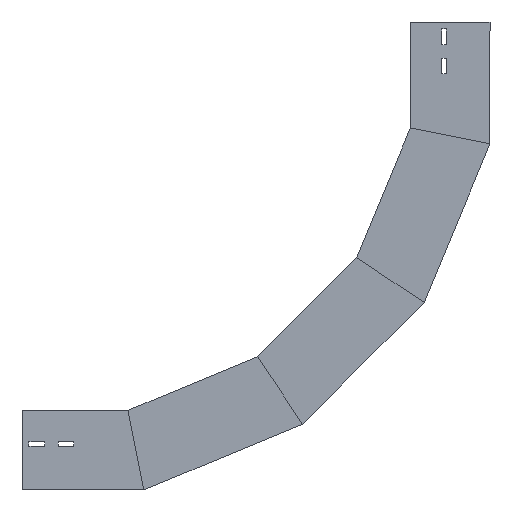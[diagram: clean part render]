
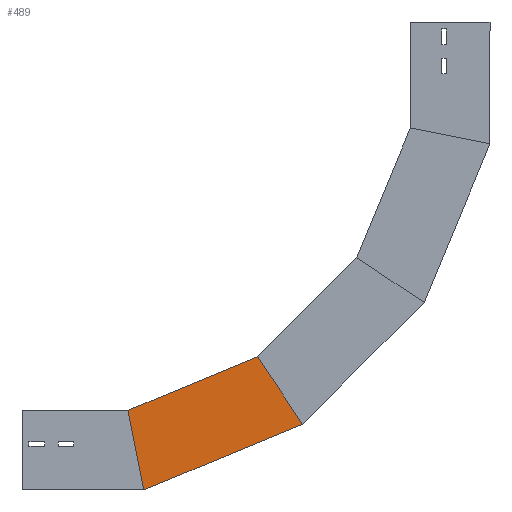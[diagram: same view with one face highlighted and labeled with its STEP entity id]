
A CAD part, left-side view. The second image highlights one B-rep face of the part: STEP entity #489.
In plain terms, the highlighted planar face has unit normal (-1, 0, 0) as drawn and (1, 0, 0) by its records, which use the part's own axes.
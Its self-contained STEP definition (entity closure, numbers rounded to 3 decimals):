
#46 = LINE ( 'NONE', #523, #459 ) ;
#47 = VERTEX_POINT ( 'NONE', #443 ) ;
#51 = CARTESIAN_POINT ( 'NONE',  ( 0., 32.93, -165.55 ) ) ;
#64 = DIRECTION ( 'NONE',  ( -1., 0., 0. ) ) ;
#82 = CARTESIAN_POINT ( 'NONE',  ( 0., 93.03, -396.695 ) ) ;
#92 = AXIS2_PLACEMENT_3D ( 'NONE', #1627, #64, #1808 ) ;
#213 = CARTESIAN_POINT ( 'NONE',  ( 0., 188.403, -332.969 ) ) ;
#224 = EDGE_CURVE ( 'NONE', #320, #1850, #1189, .T. ) ;
#248 = LINE ( 'NONE', #987, #1246 ) ;
#260 = ORIENTED_EDGE ( 'NONE', *, *, #1364, .T. ) ;
#293 = ORIENTED_EDGE ( 'NONE', *, *, #959, .T. ) ;
#320 = VERTEX_POINT ( 'NONE', #213 ) ;
#443 = CARTESIAN_POINT ( 'NONE',  ( 0., 112.5, -149.722 ) ) ;
#459 = VECTOR ( 'NONE', #818, 1000. ) ;
#463 = ORIENTED_EDGE ( 'NONE', *, *, #1502, .F. ) ;
#489 = ADVANCED_FACE ( 'NONE', ( #920 ), #929, .F. ) ;
#523 = CARTESIAN_POINT ( 'NONE',  ( 0., 0., -172.1 ) ) ;
#524 = VECTOR ( 'NONE', #1504, 1000. ) ;
#549 = VERTEX_POINT ( 'NONE', #1118 ) ;
#602 = ORIENTED_EDGE ( 'NONE', *, *, #224, .F. ) ;
#659 = CARTESIAN_POINT ( 'NONE',  ( 0., 132.464, -370.346 ) ) ;
#680 = LINE ( 'NONE', #51, #1577 ) ;
#818 = DIRECTION ( 'NONE',  ( 0., 0.383, -0.924 ) ) ;
#920 = FACE_OUTER_BOUND ( 'NONE', #1456, .T. ) ;
#929 = PLANE ( 'NONE',  #92 ) ;
#959 = EDGE_CURVE ( 'NONE', #549, #1850, #46, .T. ) ;
#987 = CARTESIAN_POINT ( 'NONE',  ( 0., 103.936, -129.048 ) ) ;
#1118 = CARTESIAN_POINT ( 'NONE',  ( 0., 0., -172.1 ) ) ;
#1189 = LINE ( 'NONE', #659, #524 ) ;
#1246 = VECTOR ( 'NONE', #1569, 1000. ) ;
#1364 = EDGE_CURVE ( 'NONE', #47, #549, #680, .T. ) ;
#1456 = EDGE_LOOP ( 'NONE', ( #463, #260, #293, #602 ) ) ;
#1502 = EDGE_CURVE ( 'NONE', #47, #320, #248, .T. ) ;
#1504 = DIRECTION ( 'NONE',  ( 0., -0.831, -0.556 ) ) ;
#1569 = DIRECTION ( 'NONE',  ( 0., 0.383, -0.924 ) ) ;
#1577 = VECTOR ( 'NONE', #1829, 1000. ) ;
#1627 = CARTESIAN_POINT ( 'NONE',  ( 0., 0., -172.1 ) ) ;
#1808 = DIRECTION ( 'NONE',  ( 0., 0., 1. ) ) ;
#1829 = DIRECTION ( 'NONE',  ( 0., -0.981, -0.195 ) ) ;
#1850 = VERTEX_POINT ( 'NONE', #82 ) ;
